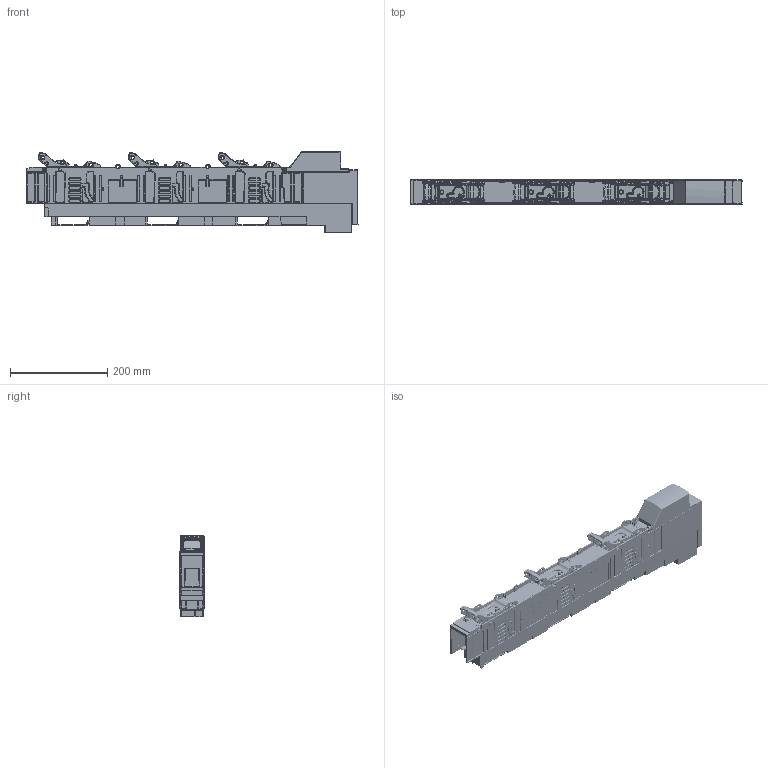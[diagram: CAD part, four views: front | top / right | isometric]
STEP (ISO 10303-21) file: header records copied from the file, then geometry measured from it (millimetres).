
FILE_DESCRIPTION(/* description */ (''),/* implementation_level */ '2;1');
FILE_NAME(/* name */ 'smartARS 00-1.stp',/* time_stamp */ '2018-07-16T09:09:25+02:00',/* author */ (''),/* organization */ (''),/* preprocessor_version */ 'ST-DEVELOPER v16',/* originating_system */ 'SIEMENS PLM Software NX 10.0',/* authorisation */ '');
FILE_SCHEMA (('AUTOMOTIVE_DESIGN { 1 0 10303 214 3 1 1 1 }'));
Products named in the file (1): 710_0AD4EC05y3do
Bounding box: 684.06 x 50.42 x 168.35 mm (x, y, z)
Surface area: 426087.8 mm2
Topology: 8 solids, 9 shells, 8154 faces, 20944 edges, 12713 vertices
Faces by surface type: plane 2580, bspline 2138, cylinder 1850, torus 506, cone 429, extrusion 337, sphere 314
Full cylindrical faces by diameter (mm): 3.5 x2, 6 x3, 6.3 x6, 8.8 x1, 12 x6, 12.828 x1, 14.5 x1
Entity records: 306054 total; most frequent: CARTESIAN_POINT 127394, ORIENTED_EDGE 41098, DIRECTION 32004, EDGE_CURVE 20549, VERTEX_POINT 12661, AXIS2_PLACEMENT_3D 11455, VECTOR 9094, LINE 8757
